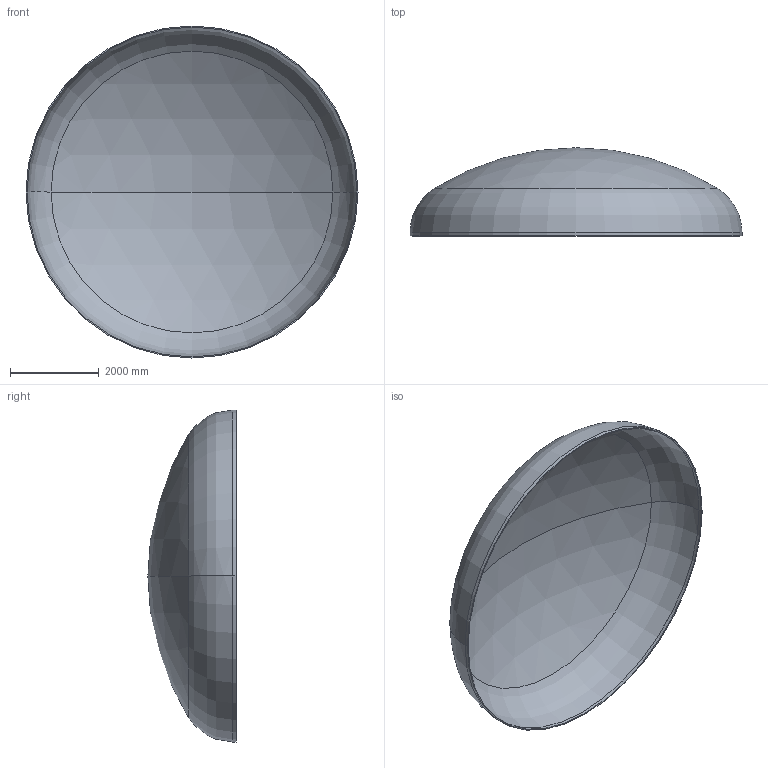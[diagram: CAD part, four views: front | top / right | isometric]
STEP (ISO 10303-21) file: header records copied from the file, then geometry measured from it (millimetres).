
FILE_DESCRIPTION (( 'STEP AP203' ), '1' );
FILE_NAME ('DIN 28013 Korbbogenform_-_Boden DIN 28013 - 7500 x 75 - I - s=24.step', '2016-07-04T10:52:25', ( '' ), ( '' ), 'SwSTEP 2.0', 'SolidWorks 2013', '' );
FILE_SCHEMA (( 'CONFIG_CONTROL_DESIGN' ));
Length unit declared in the file: millimetre
Products named in the file (1): DIN 28013 Korbbogenform_-_Boden DIN 28013 - 7500 x 75 - I - s=24
Bounding box: 7500 x 1992.42 x 7500 mm (x, y, z)
Volume: 1504655989.6 mm3; surface area: 125952831.7 mm2
Topology: 1 solids, 1 shells, 13 faces, 24 edges, 14 vertices
Faces by surface type: torus 4, cylinder 4, sphere 4, plane 1
Entity records: 407 total; most frequent: DIRECTION 72, CARTESIAN_POINT 52, ORIENTED_EDGE 48, AXIS2_PLACEMENT_3D 34, EDGE_CURVE 24, CIRCLE 20, VERTEX_POINT 14, EDGE_LOOP 14
